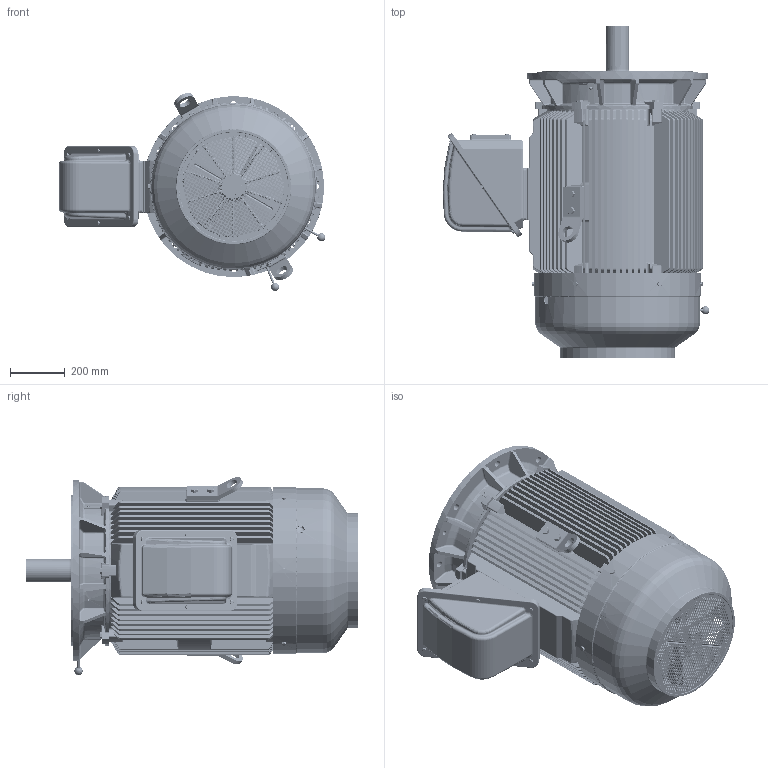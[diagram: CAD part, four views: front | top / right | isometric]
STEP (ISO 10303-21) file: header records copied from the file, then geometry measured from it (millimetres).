
FILE_DESCRIPTION(('CATIA V5 STEP Exchange'),'2;1');
FILE_NAME('C:\Documents and Settings\matthen\桌面\315MC-V-NEW HIGH FIN.stp','2011-06-17T10:14:23+00:00',('none'),('none'),'CATIA Version 5 Release 19 SP 2 (IN-10)','CATIA V5 STEP AP203','none');
FILE_SCHEMA(('CONFIG_CONTROL_DESIGN'));
Length unit declared in the file: millimetre
Products named in the file (4): 315MC-NEW HIGH FIN; 3A6001310008; 3A210D002; 3A210D001
Assembly tree (80 placements, depth 3):
  315MC-NEW HIGH FIN
    #58
    #81
    #2382
    #46911
    #98709
    3A6001310008
      #181417
      #192197
      #199938
      #200517  x4
      #201091  x4
      #201665  x6
    #202282
    #209330
    #219099
    3A210D002
      #221872
      #222975
      #223474
      #223978
      #224168
    3A210D001
      #224359
      #225462
      #223474
      #223978
      #224168
    #226288
    #450053
    #450700
    #451347  x2
    #452123  x12
    #452817  x8
    #453451  x4
    #453995  x6
    #455311  x4
    #455915
    #461888
    #479557
Bounding box: 973.55 x 1212 x 723.53 mm (x, y, z)
Volume: 63356225 mm3; surface area: 12823994.6 mm2
Topology: 76 solids, 78 shells, 12882 faces, 35586 edges, 22702 vertices
Faces by surface type: cylinder 4990, plane 4746, bspline 1433, torus 891, cone 652, sphere 158, revolution 12
Entity records: 481146 total; most frequent: CARTESIAN_POINT 191610, ORIENTED_EDGE 66826, DIRECTION 45957, EDGE_CURVE 33413, VERTEX_POINT 21528, AXIS2_PLACEMENT_3D 19942, VECTOR 16721, LINE 16721
